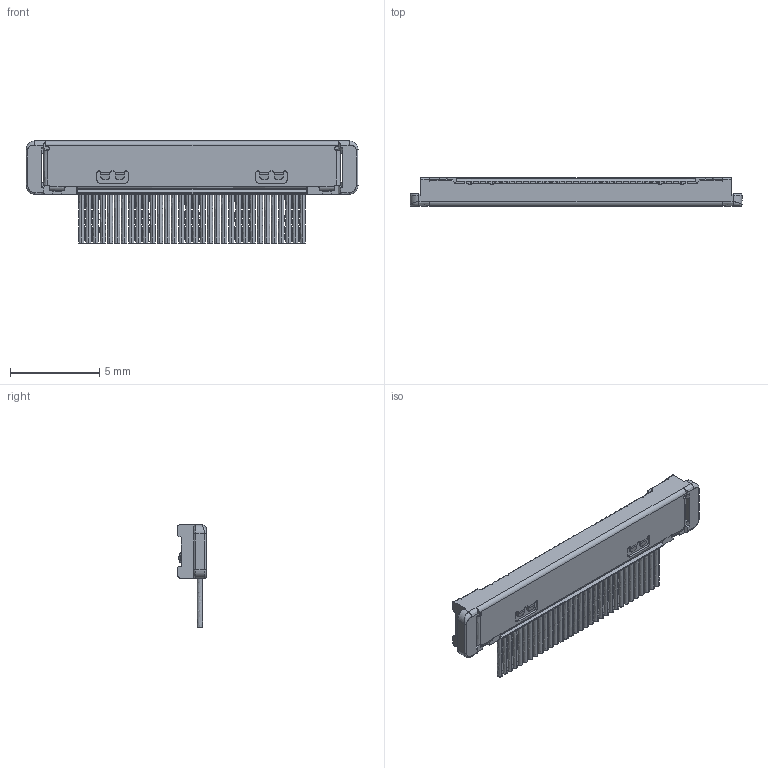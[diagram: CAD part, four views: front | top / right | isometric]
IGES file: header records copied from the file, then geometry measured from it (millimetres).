
Start section: SolidWorks IGES file using analytic representation for surfaces
Global section: file name: C:\3d-work\吉村\CAB-SS 3Dデータ 120316\3Dデータ\20380-032T-03C PLUG CABLE ASSY IGES R7R2 ALL.IGS; native system: SolidWorks 2011; preprocessor: SolidWorks 2011; author: 3DCAD; date: 120316.234436; units: millimetre
Bounding box: 18.6 x 1.6 x 5.72 mm (x, y, z)
Surface area: 348.8 mm2 (no closed solid volume)
Topology: 0 solids, 0 shells, 1167 faces, 9875 edges, 9875 vertices
Faces by surface type: bspline 824, revolution 343
